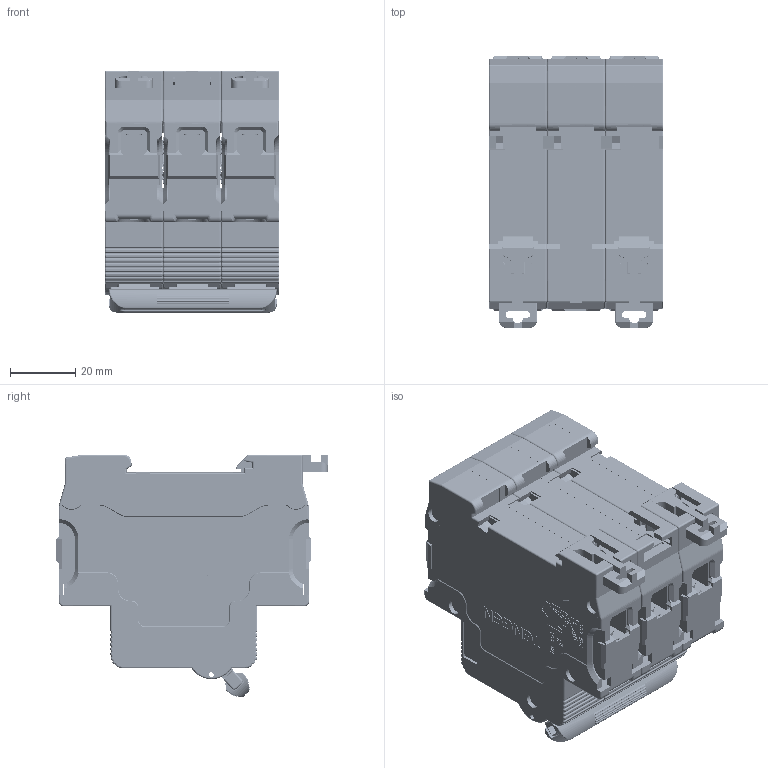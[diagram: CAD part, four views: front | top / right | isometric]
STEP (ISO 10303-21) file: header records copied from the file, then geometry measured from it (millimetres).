
FILE_DESCRIPTION (( 'STEP AP214' ), '1' );
FILE_NAME ('TGBG-63DC 3P.STEP', '2025-12-15T13:28:13', ( '' ), ( '' ), 'SwSTEP 2.0', 'SolidWorks 2024', '' );
FILE_SCHEMA (( 'AUTOMOTIVE_DESIGN' ));
Products named in the file (3): 3P_1.stp; TGBG-63DC 3P.stp; TGBG-63DC 3P
Assembly tree (2 placements, depth 3):
  TGBG-63DC 3P
    TGBG-63DC 3P.stp
      3P_1.stp
Bounding box: 53.4 x 83.15 x 74.41 mm (x, y, z)
Volume: 201891.2 mm3; surface area: 63870.1 mm2
Topology: 1 solids, 7 shells, 9199 faces, 24823 edges, 15801 vertices
Faces by surface type: plane 6158, cylinder 1628, bspline 616, torus 564, cone 202, sphere 31
Entity records: 324526 total; most frequent: CARTESIAN_POINT 99350, ORIENTED_EDGE 49586, DIRECTION 42809, EDGE_CURVE 24793, VECTOR 17973, LINE 17973, VERTEX_POINT 15801, AXIS2_PLACEMENT_3D 12418
